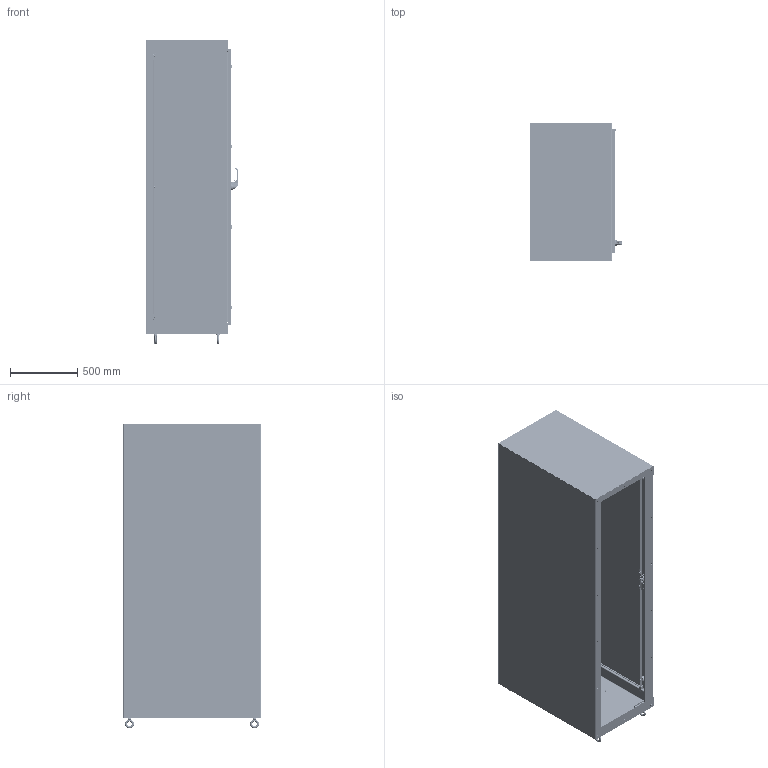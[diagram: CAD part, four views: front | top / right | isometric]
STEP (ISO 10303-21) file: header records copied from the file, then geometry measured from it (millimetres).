
FILE_DESCRIPTION((''),'2;1');
FILE_NAME('MODEL-461_ASM','2026-04-20T16:21:37',('richards'),('SAGINAW CONTROL & ENGINEERING'),'CREO PARAMETRIC BY PTC INC, 2021284','CREO PARAMETRIC BY PTC INC, 2021284','');
FILE_SCHEMA(('AUTOMOTIVE_DESIGN { 1 0 10303 214 1 1 1 1 }'));
Length unit declared in the file: inch
Products named in the file (80): MODEL-461-L-SD; MODEL-461-TP; MODEL-461-R-SD; MODEL-461-BTM; MODEL-461-DR; 100837; 100957_SCREW_MTG; 100957_PADLOCK_CATCH; 100957_SCREW_LARGE; 100957_INSERT_SHAFT; 100957_INSERT_PH; 100957_GASKET; 100957_O-RING; 100957_BASE; 100957_SPRING; 100957_HANDLE; 100957_CAM_SHAFT; 100957_HANDLE_ASM; 100957_CAM_ADAPTER; 100957_EARTH_NUT; 100957_FLANGE_NUT; 100957_CAM_NUT; 100957_ASM; 102237; 100030; 102237_ASM; MODEL-461-ROD-UPR; 128146; 128145; 128144; 102482; MODEL-461-ROD-UPR_ASM; 128143; 100882; 112504; MODEL-461-ROD-LWR; MODEL-461-ROD-LWR_ASM; MODEL-461-PR-GSKT; 128258; 128258_ASM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
Assembly tree (149 placements, depth 5):
  MODEL-461_ASM
    MODEL-461-L-SD
    MODEL-461-TP
    MODEL-461-R-SD
    MODEL-461-BTM
    MODEL-461-DOOR-ASSY_ASM
      MODEL-461-DR
      100837  x3
      100957_ASM
        100957_SCREW_MTG
        100957_PADLOCK_CATCH
        100957_SCREW_LARGE  x2
        100957_INSERT_SHAFT
        100957_INSERT_PH
        100957_GASKET
        100957_O-RING
        100957_BASE
        100957_SPRING
        100957_HANDLE_ASM
          100957_HANDLE
          100957_CAM_SHAFT
        100957_CAM_ADAPTER
        100957_EARTH_NUT
        100957_FLANGE_NUT
        100957_CAM_NUT
      102237_ASM
        102237
        100030  x2
      MODEL-461-ROD-UPR_ASM
        MODEL-461-ROD-UPR
        128146
        128145
        128144
        102482  x2
      128143  x2
      100882  x10
      112504  x2
      MODEL-461-ROD-LWR_ASM
        MODEL-461-ROD-LWR
        128146
        128145
        128144
        102482  x2
      MODEL-461-PR-GSKT
      128258_ASM  x4
        128258
      126395  x4
      102483  x4
      101383_ASM  x4
        101383
        101383-STUD
      101221  x4
      125597
    MODEL-461-BCK
    100837  x6
    101653  x8
    102245  x2
    121454
    MODEL-461-BB  x3
    130514  x4
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Bounding box: 687.67 x 1022.35 x 2259.2 mm (x, y, z)
Volume: 28398237.3 mm3; surface area: 20466961.5 mm2
Topology: 154 solids, 154 shells, 15755 faces, 39831 edges, 24470 vertices
Faces by surface type: plane 5232, cylinder 4406, bspline 3295, torus 1378, cone 667, sphere 482, extrusion 295
Entity records: 547885 total; most frequent: CARTESIAN_POINT 262656, ORIENTED_EDGE 44452, DIRECTION 40629, PRESENTATION_STYLE_ASSIGNMENT 22295, STYLED_ITEM 22265, EDGE_CURVE 22226, CURVE_STYLE 22178, AXIS2_PLACEMENT_3D 15082
